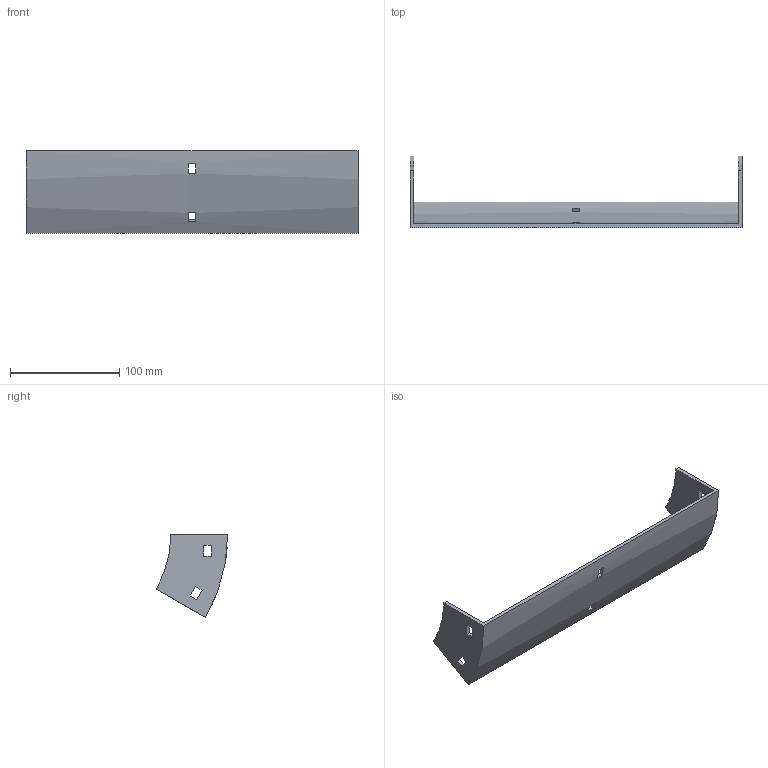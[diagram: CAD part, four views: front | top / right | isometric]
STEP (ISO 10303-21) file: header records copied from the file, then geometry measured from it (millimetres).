
FILE_DESCRIPTION (( 'STEP AP214' ), '1' );
FILE_NAME ('32B1B300.step', '2025-02-21T09:43:34', ( '' ), ( '' ), 'SwSTEP 2.0', 'SolidWorks 2023', '' );
FILE_SCHEMA (( 'AUTOMOTIVE_DESIGN' ));
Length unit declared in the file: millimetre
Products named in the file (1): 32B1B300
Bounding box: 304 x 65.4 x 76 mm (x, y, z)
Volume: 104400.5 mm3; surface area: 63531.7 mm2
Topology: 1 solids, 1 shells, 34 faces, 96 edges, 64 vertices
Faces by surface type: plane 30, cylinder 4
Entity records: 1143 total; most frequent: CARTESIAN_POINT 195, ORIENTED_EDGE 192, DIRECTION 182, EDGE_CURVE 96, LINE 80, VECTOR 80, VERTEX_POINT 64, AXIS2_PLACEMENT_3D 51
